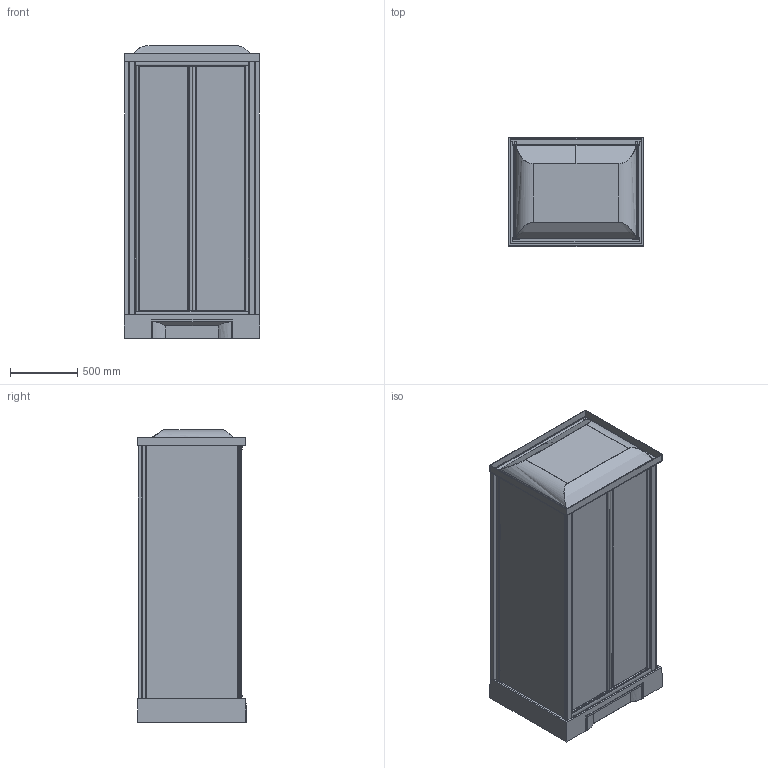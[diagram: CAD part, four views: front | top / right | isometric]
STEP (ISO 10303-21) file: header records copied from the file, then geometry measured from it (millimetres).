
FILE_DESCRIPTION(('STEP AP203'),'2;1');
FILE_NAME('NNH 2F 100 T T.stp','2015-09-04T14:49:58',(''),(''),'2014.1.117','THINKDESIGN','');
FILE_SCHEMA(('CONFIG_CONTROL_DESIGN'));
Length unit declared in the file: millimetre
Products named in the file (1): top
Bounding box: 1004.04 x 807.53 x 2170 mm (x, y, z)
Volume: 179886631 mm3; surface area: 20468535.7 mm2
Topology: 26 solids, 26 shells, 595 faces, 1564 edges, 1020 vertices
Faces by surface type: bspline 284, plane 274, cylinder 37
Entity records: 54253 total; most frequent: CARTESIAN_POINT 41891, ORIENTED_EDGE 3020, DIRECTION 1584, EDGE_CURVE 1510, VERTEX_POINT 983, VECTOR 758, LINE 758, EDGE_LOOP 605
